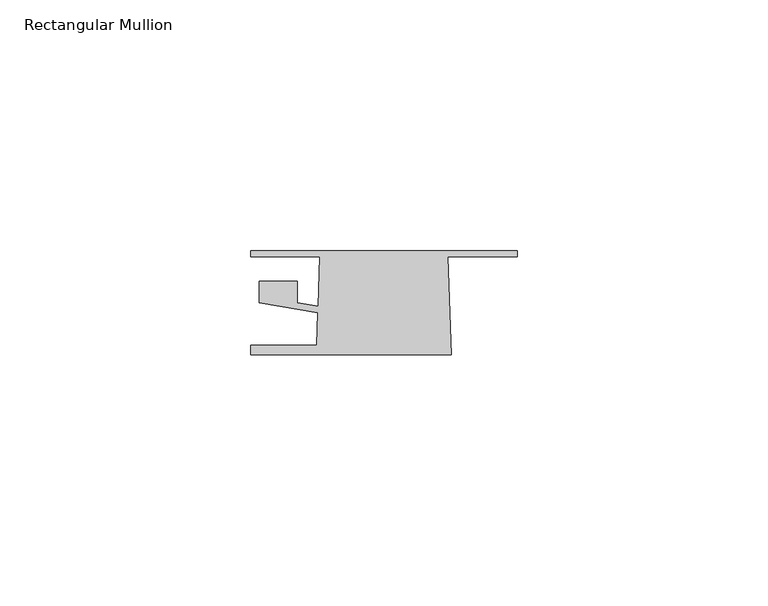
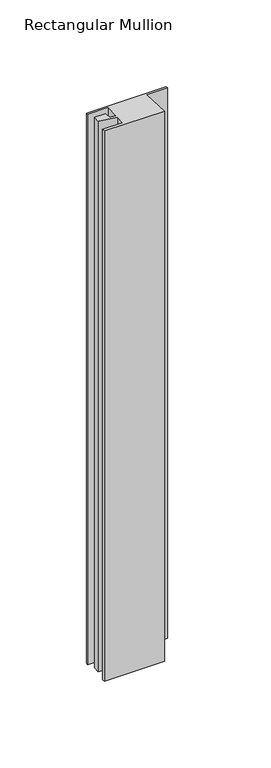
"""IFC4 building model written with IfcOpenShell, lengths in millimetres: member geometry, Rectangular Mullion : QuickPanel-Absolute_Projecting-Window-Jamb-Trim-Top."""

import ifcopenshell
import ifcopenshell.guid

model = None  # the IFC model being written
_history = None  # IfcOwnerHistory: only IFC2X3 demands one
_inside = {}  # id of a spatial element -> (the spatial element, [elements in it])
_under = {}  # id of a project, library or spatial element -> (it, [spatial elements below it])
_declared = {}  # id of a project -> (the project, [libraries it declares])
_typed = {}  # id of a type object -> (the type object, [elements of that type])
_made_of = {}  # id of a material, layer set ... -> (it, [elements and type objects made of it])


def new_model(schema):
    """Start an empty IFC model of exactly this schema.

    Asked for "IFC4X3", IfcOpenShell would pick the latest addendum, in which some entities
    have other attributes; the version numbers below select the first issue.
    IFC2X3 requires an IfcOwnerHistory on every rooted entity: one is made here for all.
    """
    global model, _history
    if schema == "IFC4X3":
        model = ifcopenshell.file(schema_version=(4, 3, 0, 0))
    else:
        model = ifcopenshell.file(schema=schema)
    _inside.clear()
    _under.clear()
    _declared.clear()
    _typed.clear()
    _made_of.clear()
    _history = None
    if model.schema == "IFC2X3":
        org = make("IfcOrganization", Name="unknown")
        user = make(
            "IfcPersonAndOrganization",
            ThePerson=make("IfcPerson", FamilyName="unknown"),
            TheOrganization=org,
        )
        app = make(
            "IfcApplication",
            ApplicationDeveloper=org,
            Version="unknown",
            ApplicationFullName="unknown",
            ApplicationIdentifier="unknown",
        )
        _history = make(
            "IfcOwnerHistory",
            OwningUser=user,
            OwningApplication=app,
            ChangeAction="ADDED",
            CreationDate=0,
        )
    return model


def make(cls, **values):
    """One entity of the class cls with the attributes given. An attribute that is None is left unset."""
    return model.create_entity(
        cls, **{name: value for name, value in values.items() if value is not None}
    )


def rooted(cls, **values):
    """An entity with a GlobalId (a new one), such as an element, a storey or a relation."""
    return make(cls, GlobalId=ifcopenshell.guid.new(), OwnerHistory=_history, **values)


def si_unit(unit_type, name, prefix=None):
    """IfcSIUnit, for example si_unit("LENGTHUNIT", "METRE", prefix="MILLI")."""
    return make("IfcSIUnit", UnitType=unit_type, Prefix=prefix, Name=name)


def assignment(units):
    """IfcUnitAssignment: the units of a project."""
    return None if units is None else make("IfcUnitAssignment", Units=units)


def point(xyz):
    """IfcCartesianPoint."""
    return None if xyz is None else make("IfcCartesianPoint", Coordinates=xyz)


def direction(xyz):
    """IfcDirection."""
    return None if xyz is None else make("IfcDirection", DirectionRatios=xyz)


def frame(location, z_axis=None, x_axis=None):
    """IfcAxis2Placement3D, a coordinate frame: its origin and axes. An axis left out is left unset."""
    return make(
        "IfcAxis2Placement3D",
        Location=point(location),
        Axis=direction(z_axis),
        RefDirection=direction(x_axis),
    )


def origin():
    """The frame at (0, 0, 0) with its axes left unset."""
    return frame((0.0, 0.0, 0.0))


def place(relative_to, where):
    """IfcLocalPlacement: puts the frame where relative to a parent placement (None: the world)."""
    return make(
        "IfcLocalPlacement", PlacementRelTo=relative_to, RelativePlacement=where
    )


def context(
    kind, dimensions, precision=None, world=None, true_north=None, identifier=None
):
    """IfcGeometricRepresentationContext, for example the 3D "Model" context."""
    return make(
        "IfcGeometricRepresentationContext",
        ContextIdentifier=identifier,
        ContextType=kind,
        CoordinateSpaceDimension=dimensions,
        Precision=precision,
        WorldCoordinateSystem=world,
        TrueNorth=true_north,
    )


def project(units=None, contexts=None):
    """IfcProject with its units and contexts."""
    return rooted(
        "IfcProject",
        Name="project",
        RepresentationContexts=contexts,
        UnitsInContext=assignment(units),
    )


def spatial(cls, under=None, at=None, **own):
    """A site, building, storey or space (cls), placed at a placement, below another one or the project."""
    s = rooted(cls, ObjectPlacement=at, **own)
    if under is not None:
        _under.setdefault(under.id(), (under, []))[1].append(s)
    return s


def polyline(points):
    """IfcPolyline through the points."""
    return make("IfcPolyline", Points=[point(p) for p in points])


def outline(outer, holes=None, kind="AREA"):
    """IfcArbitraryClosedProfileDef: a profile drawn as a closed curve; with holes, ...WithVoids."""
    if holes is None:
        return make("IfcArbitraryClosedProfileDef", ProfileType=kind, OuterCurve=outer)
    return make(
        "IfcArbitraryProfileDefWithVoids",
        ProfileType=kind,
        OuterCurve=outer,
        InnerCurves=holes,
    )


def extrude(swept, where, along, depth):
    """IfcExtrudedAreaSolid: the profile swept, set in the frame where, extruded along a direction by depth."""
    return make(
        "IfcExtrudedAreaSolid",
        SweptArea=swept,
        Position=where,
        ExtrudedDirection=direction(along),
        Depth=depth,
    )


def shape(context_of_items, identifier, shape_type, items):
    """IfcShapeRepresentation: the items that make up one representation, for example the "Body"."""
    return make(
        "IfcShapeRepresentation",
        ContextOfItems=context_of_items,
        RepresentationIdentifier=identifier,
        RepresentationType=shape_type,
        Items=items,
    )


def source(mapping_origin, context_of_items, identifier, shape_type, items):
    """IfcRepresentationMap: a shape defined once, which mapped items show again and again."""
    return make(
        "IfcRepresentationMap",
        MappingOrigin=mapping_origin,
        MappedRepresentation=shape(context_of_items, identifier, shape_type, items),
    )


def transform(
    local_origin,
    x_axis=None,
    y_axis=None,
    z_axis=None,
    scale=None,
    scale2=None,
    scale3=None,
    uniform=True,
):
    """IfcCartesianTransformationOperator3D, or its non-uniform kind. x_axis, y_axis, z_axis: its Axis1, 2, 3."""
    if uniform:
        return make(
            "IfcCartesianTransformationOperator3D",
            Axis1=direction(x_axis),
            Axis2=direction(y_axis),
            LocalOrigin=point(local_origin),
            Scale=scale,
            Axis3=direction(z_axis),
        )
    return make(
        "IfcCartesianTransformationOperator3DnonUniform",
        Axis1=direction(x_axis),
        Axis2=direction(y_axis),
        LocalOrigin=point(local_origin),
        Scale=scale,
        Axis3=direction(z_axis),
        Scale2=scale2,
        Scale3=scale3,
    )


def mapped(mapping_source, mapping_target):
    """IfcMappedItem: shows the shape of a source again, moved by a transform."""
    return make(
        "IfcMappedItem", MappingSource=mapping_source, MappingTarget=mapping_target
    )


def made_of(thing, what):
    """Note that an element or type object is made of a material, layer set ...; save() writes the relation."""
    if what is not None:
        _made_of.setdefault(what.id(), (what, []))[1].append(thing)
    return thing


def element(
    cls,
    number,
    at=None,
    inside=None,
    cuts=None,
    type_object=None,
    material=None,
    context=None,
    identifier="Body",
    shape_type=None,
    held_by="IfcProductDefinitionShape",
    body=None,
    shapes=None,
    **own,
):
    """One element of the class cls, such as IfcWall. Its Tag is "e" and its number.

    at: its placement. inside: the storey or other place that contains it. cuts: it is an
    opening in that element (IfcRelVoidsElement). A single representation is given by context,
    identifier, shape_type and body (its items); several are given by shapes. held_by: the class
    of the entity that holds the representations. save() writes the other relations.
    """
    e = rooted(cls, Tag="e%d" % number, ObjectPlacement=at, **own)
    if body is not None:
        shapes = [shape(context, identifier, shape_type, body)]
    if shapes is not None:
        e.Representation = make(held_by, Representations=shapes)
    if inside is not None:
        _inside.setdefault(inside.id(), (inside, []))[1].append(e)
    if cuts is not None:
        rooted(
            "IfcRelVoidsElement", RelatingBuildingElement=cuts, RelatedOpeningElement=e
        )
    if type_object is not None:
        _typed.setdefault(type_object.id(), (type_object, []))[1].append(e)
    return made_of(e, material)


def aggregate(whole, parts):
    """IfcRelAggregates: a whole, such as a stair, and the parts it consists of."""
    return rooted("IfcRelAggregates", RelatingObject=whole, RelatedObjects=parts)


def save(model, path):
    """Write the relations noted so far, then the file.

    IfcRelAggregates (storeys below a building ...), IfcRelContainedInSpatialStructure (elements
    in a storey), IfcRelDefinesByType, IfcRelAssociatesMaterial and IfcRelDeclares: one each for
    every whole, place, type object, material and project.
    """
    for whole, parts in _under.values():
        aggregate(whole, parts)
    for where, things in _inside.values():
        rooted(
            "IfcRelContainedInSpatialStructure",
            RelatedElements=things,
            RelatingStructure=where,
        )
    for kind, things in _typed.values():
        rooted("IfcRelDefinesByType", RelatedObjects=things, RelatingType=kind)
    for what, things in _made_of.values():
        rooted("IfcRelAssociatesMaterial", RelatedObjects=things, RelatingMaterial=what)
    for by, libraries in _declared.values():
        rooted("IfcRelDeclares", RelatingContext=by, RelatedDefinitions=libraries)
    model.write(path)


def rectangular_mullion_37b364d7(model_context):
    return source(origin(), model_context, "Body", "SweptSolid", [
        extrude(outline(polyline([(13.4553134, -8.6293878), (-26.5896522, -8.6293878), (-26.5896522, -6.6935423), (-13.3749872, -6.6935423), (-13.1482736, -0.2013141), (-24.8382072, 1.8027151), (-24.8382072, 6.096), (-17.2623469, 6.096), (-17.2623469, 1.7924942), (-13.1035451, 1.0795423), (-12.7595465, 10.9303752), (-26.5896522, 10.9303752), (-26.5896522, 12.1803727), (26.6286248, 12.1803727), (26.6286248, 10.9303752), (12.7722714, 10.9303752), (13.4553134, -8.6293878)])), frame((0.0, 0.0, -387.814328), z_axis=(0.0, 0.0, 1.0), x_axis=(1.0, 0.0, 0.0)), (0.0, 0.0, 1.0), 387.814328),
    ])


if __name__ == "__main__":
    model = new_model("IFC4")
    model_context = context("Model", 3, world=origin())
    ifc_project = project(units=[si_unit("LENGTHUNIT", "METRE", prefix="MILLI")], contexts=[model_context])
    site = spatial("IfcSite", under=ifc_project)
    building = spatial("IfcBuilding", under=site)
    placement = place(None, origin())
    rectangular_mullion_shape = rectangular_mullion_37b364d7(model_context)
    element("IfcMember", 1, ObjectType="Rectangular Mullion : QuickPanel-Absolute_Projecting-Window-Jamb-Trim-Top", at=placement, inside=building, context=model_context, shape_type="MappedRepresentation", body=[
        mapped(rectangular_mullion_shape, transform((0.0, 0.0, 0.0), x_axis=(1.0, 0.0, 0.0), y_axis=(0.0, 1.0, 0.0), z_axis=(0.0, 0.0, 1.0))),
    ])
    save(model, "model.ifc")
